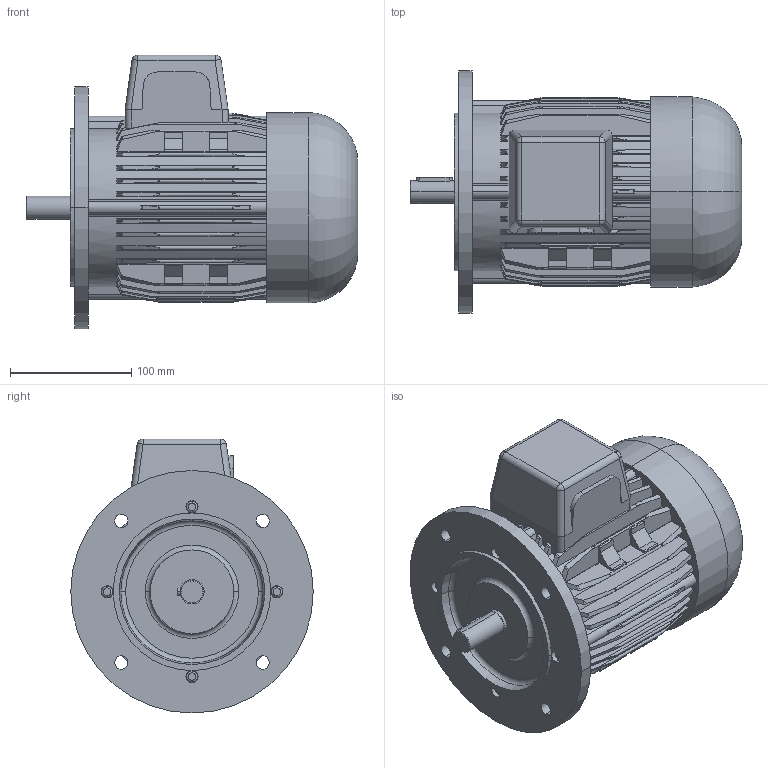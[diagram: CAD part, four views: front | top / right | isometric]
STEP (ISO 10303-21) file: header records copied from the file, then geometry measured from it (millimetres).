
FILE_DESCRIPTION(('OneSpaceDesigner STEP Export'),'2;1');
FILE_NAME('OD8_B5_FF165.stp','2008-04-24T13:30:15',(''),(''),'OneSpace Designer STEP processor (Jan. 2003) for AP214(CD)(Solid Model)','OneSpace Designer 12.01D 09-Jul-2004 (C) CoCreate Software GmbH','');
FILE_SCHEMA(('AUTOMOTIVE_DESIGN_CC2 {1 2 10303 214 -1 1 5 1}'));
Products named in the file (2): OD8_B5_FF165
Assembly tree (1 placements, depth 2):
  OD8_B5_FF165
    OD8_B5_FF165
Bounding box: 273.5 x 200 x 226 mm (x, y, z)
Volume: 4223514.3 mm3; surface area: 280045.3 mm2
Topology: 1 solids, 1 shells, 502 faces, 1435 edges, 945 vertices
Faces by surface type: plane 185, cylinder 140, cone 127, torus 46, sphere 4
Entity records: 40015 total; most frequent: CARTESIAN_POINT 28112, ORIENTED_EDGE 2862, DIRECTION 1852, EDGE_CURVE 1431, VERTEX_POINT 945, AXIS2_PLACEMENT_3D 657, VECTOR 538, LINE 538
